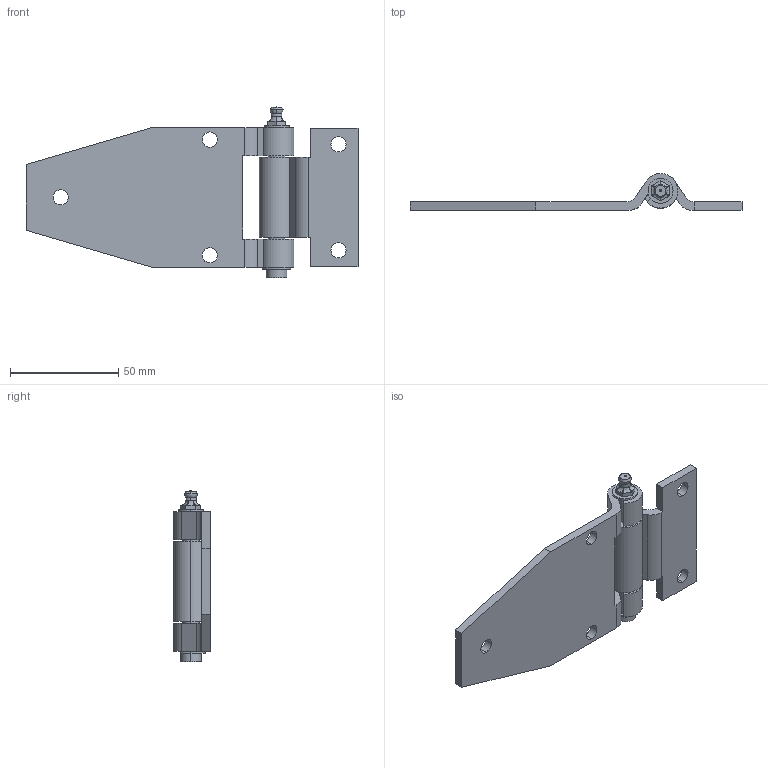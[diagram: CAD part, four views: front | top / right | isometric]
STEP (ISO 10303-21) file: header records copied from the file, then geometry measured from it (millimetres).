
FILE_DESCRIPTION (( 'STEP AP203' ), '1' );
FILE_NAME ('XG02-088-2.STEP', '2023-12-21T08:54:47', ( '' ), ( '' ), 'SwSTEP 2.0', 'SolidWorks 2020', '' );
FILE_SCHEMA (( 'CONFIG_CONTROL_DESIGN' ));
Length unit declared in the file: millimetre
Products named in the file (1): XG02-088-2
Bounding box: 153.53 x 16.99 x 79.5 mm (x, y, z)
Volume: 42018 mm3; surface area: 24791 mm2
Topology: 3 solids, 3 shells, 112 faces, 295 edges, 189 vertices
Faces by surface type: plane 51, cylinder 43, bspline 6, torus 6, sphere 4, cone 2
Entity records: 3760 total; most frequent: CARTESIAN_POINT 855, DIRECTION 619, ORIENTED_EDGE 578, EDGE_CURVE 289, AXIS2_PLACEMENT_3D 231, VERTEX_POINT 187, VECTOR 157, LINE 157
